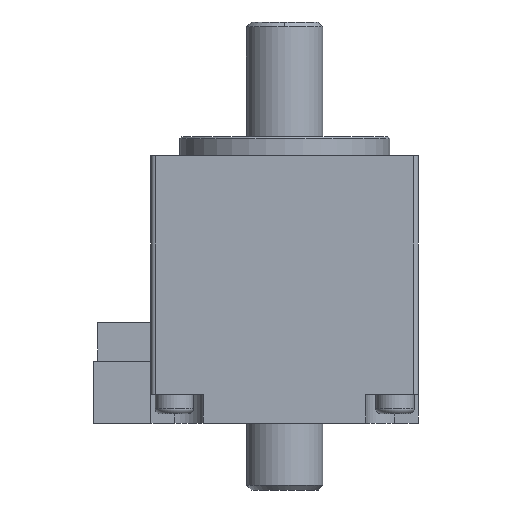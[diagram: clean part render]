
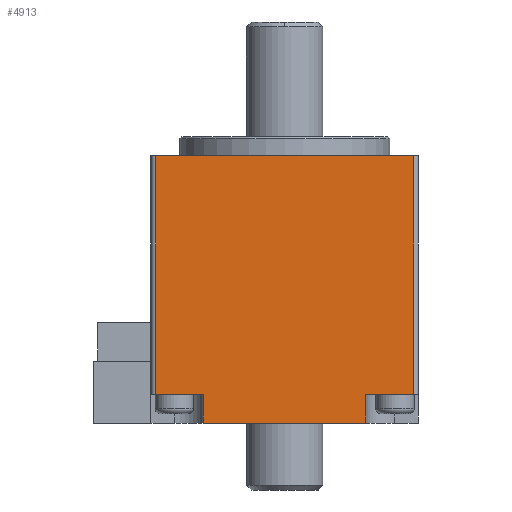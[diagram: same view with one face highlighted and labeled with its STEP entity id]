
A CAD part, front view. The second image highlights one B-rep face of the part: STEP entity #4913.
In plain terms, the highlighted planar face has unit normal (0, -1, 0).
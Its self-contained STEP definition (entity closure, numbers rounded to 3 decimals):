
#41 = AXIS2_PLACEMENT_3D ( 'NONE', #656, #646, #638 ) ;
#638 = DIRECTION ( 'NONE',  ( 0., 0., -1. ) ) ;
#646 = DIRECTION ( 'NONE',  ( 0., -1., 0. ) ) ;
#656 = CARTESIAN_POINT ( 'NONE',  ( 0., 14.206, -28. ) ) ;
#660 = PLANE ( 'NONE',  #41 ) ;
#1390 = VERTEX_POINT ( 'NONE', #3796 ) ;
#1402 = VERTEX_POINT ( 'NONE', #3801 ) ;
#1417 = VERTEX_POINT ( 'NONE', #3339 ) ;
#1425 = VERTEX_POINT ( 'NONE', #4227 ) ;
#1427 = VERTEX_POINT ( 'NONE', #4229 ) ;
#1431 = VERTEX_POINT ( 'NONE', #4234 ) ;
#1433 = VERTEX_POINT ( 'NONE', #4235 ) ;
#1448 = VERTEX_POINT ( 'NONE', #4197 ) ;
#1639 = EDGE_LOOP ( 'NONE', ( #1696, #1701, #1678, #1699, #1747, #1749, #1771, #1770 ) ) ;
#1678 = ORIENTED_EDGE ( 'NONE', *, *, #2080, .T. ) ;
#1696 = ORIENTED_EDGE ( 'NONE', *, *, #2046, .T. ) ;
#1699 = ORIENTED_EDGE ( 'NONE', *, *, #2076, .T. ) ;
#1701 = ORIENTED_EDGE ( 'NONE', *, *, #1985, .F. ) ;
#1747 = ORIENTED_EDGE ( 'NONE', *, *, #2012, .T. ) ;
#1749 = ORIENTED_EDGE ( 'NONE', *, *, #1938, .T. ) ;
#1770 = ORIENTED_EDGE ( 'NONE', *, *, #2074, .T. ) ;
#1771 = ORIENTED_EDGE ( 'NONE', *, *, #2091, .T. ) ;
#1938 = EDGE_CURVE ( 'NONE', #1431, #1433, #2913, .T. ) ;
#1985 = EDGE_CURVE ( 'NONE', #1427, #1417, #2950, .T. ) ;
#2012 = EDGE_CURVE ( 'NONE', #1448, #1431, #3022, .T. ) ;
#2046 = EDGE_CURVE ( 'NONE', #1402, #1417, #3083, .T. ) ;
#2074 = EDGE_CURVE ( 'NONE', #1390, #1402, #3099, .T. ) ;
#2076 = EDGE_CURVE ( 'NONE', #1425, #1448, #3185, .T. ) ;
#2080 = EDGE_CURVE ( 'NONE', #1427, #1425, #3143, .T. ) ;
#2091 = EDGE_CURVE ( 'NONE', #1433, #1390, #3135, .T. ) ;
#2888 = VECTOR ( 'NONE', #4272, 1000. ) ;
#2913 = LINE ( 'NONE', #4265, #2888 ) ;
#2950 = LINE ( 'NONE', #4455, #2961 ) ;
#2961 = VECTOR ( 'NONE', #4454, 1000. ) ;
#3004 = VECTOR ( 'NONE', #4475, 1000. ) ;
#3022 = LINE ( 'NONE', #4478, #3004 ) ;
#3083 = LINE ( 'NONE', #4574, #3109 ) ;
#3099 = LINE ( 'NONE', #4658, #3106 ) ;
#3106 = VECTOR ( 'NONE', #4659, 1000. ) ;
#3109 = VECTOR ( 'NONE', #4581, 1000. ) ;
#3126 = VECTOR ( 'NONE', #4643, 1000. ) ;
#3127 = VECTOR ( 'NONE', #4646, 1000. ) ;
#3135 = LINE ( 'NONE', #4647, #3145 ) ;
#3143 = LINE ( 'NONE', #4631, #3127 ) ;
#3145 = VECTOR ( 'NONE', #4681, 1000. ) ;
#3185 = LINE ( 'NONE', #4652, #3126 ) ;
#3339 = CARTESIAN_POINT ( 'NONE',  ( -33.123, 14.206, 0. ) ) ;
#3796 = CARTESIAN_POINT ( 'NONE',  ( -38.123, 14.206, -25. ) ) ;
#3801 = CARTESIAN_POINT ( 'NONE',  ( -33.123, 14.206, -25. ) ) ;
#4197 = CARTESIAN_POINT ( 'NONE',  ( -55.123, 14.206, -25. ) ) ;
#4227 = CARTESIAN_POINT ( 'NONE',  ( -60.123, 14.206, -25. ) ) ;
#4229 = CARTESIAN_POINT ( 'NONE',  ( -60.123, 14.206, 0. ) ) ;
#4234 = CARTESIAN_POINT ( 'NONE',  ( -55.123, 14.206, -28. ) ) ;
#4235 = CARTESIAN_POINT ( 'NONE',  ( -38.123, 14.206, -28. ) ) ;
#4265 = CARTESIAN_POINT ( 'NONE',  ( 0., 14.206, -28. ) ) ;
#4272 = DIRECTION ( 'NONE',  ( 1., 0., 0. ) ) ;
#4454 = DIRECTION ( 'NONE',  ( 1., 0., 0. ) ) ;
#4455 = CARTESIAN_POINT ( 'NONE',  ( 0., 14.206, 0. ) ) ;
#4475 = DIRECTION ( 'NONE',  ( 0., 0., -1. ) ) ;
#4478 = CARTESIAN_POINT ( 'NONE',  ( -55.123, 14.206, -28. ) ) ;
#4574 = CARTESIAN_POINT ( 'NONE',  ( -33.123, 14.206, -28. ) ) ;
#4581 = DIRECTION ( 'NONE',  ( 0., 0., 1. ) ) ;
#4631 = CARTESIAN_POINT ( 'NONE',  ( -60.123, 14.206, -28. ) ) ;
#4643 = DIRECTION ( 'NONE',  ( 1., 0., 0. ) ) ;
#4646 = DIRECTION ( 'NONE',  ( 0., 0., -1. ) ) ;
#4647 = CARTESIAN_POINT ( 'NONE',  ( -38.123, 14.206, -28. ) ) ;
#4652 = CARTESIAN_POINT ( 'NONE',  ( 0., 14.206, -25. ) ) ;
#4658 = CARTESIAN_POINT ( 'NONE',  ( 0., 14.206, -25. ) ) ;
#4659 = DIRECTION ( 'NONE',  ( 1., 0., 0. ) ) ;
#4681 = DIRECTION ( 'NONE',  ( 0., 0., 1. ) ) ;
#4913 = ADVANCED_FACE ( 'NONE', ( #5397 ), #660, .T. ) ;
#5397 = FACE_OUTER_BOUND ( 'NONE', #1639, .T. ) ;
